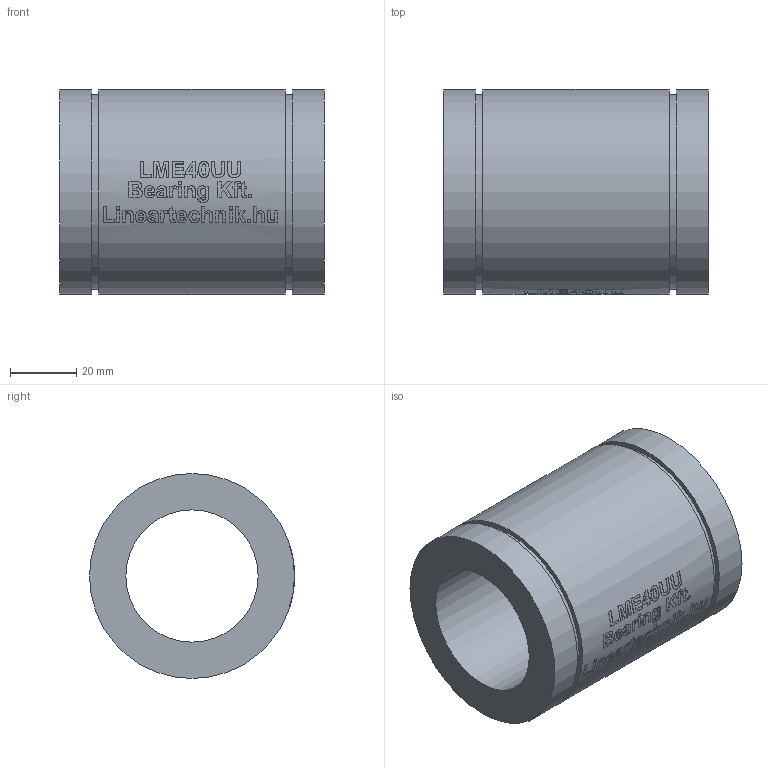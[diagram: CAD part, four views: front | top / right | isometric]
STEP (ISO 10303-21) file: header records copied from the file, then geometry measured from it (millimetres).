
FILE_DESCRIPTION(/* description */ (''),/* implementation_level */ '2;1');
FILE_NAME(/* name */ 'LME40UU',/* time_stamp */ '2019-05-17T10:33:33+02:00',/* author */ ('VĂ©gh MĂˇtĂ©'),/* organization */ ('Bearing Kft'),/* preprocessor_version */ 'ST-DEVELOPER v16.7',/* originating_system */ 'DEX',/* authorisation */ $);
FILE_SCHEMA (('AUTOMOTIVE_DESIGN {1 0 10303 214 3 1 1}'));
Length unit declared in the file: millimetre
Products named in the file (1): LME40UU
Bounding box: 80 x 62 x 62 mm (x, y, z)
Volume: 139732.9 mm3; surface area: 30322.6 mm2
Topology: 1 solids, 1 shells, 320 faces, 803 edges, 536 vertices
Faces by surface type: plane 175, bspline 92, cylinder 53
Full cylindrical faces by diameter (mm): 40 x1, 59 x2, 62 x3
Entity records: 20555 total; most frequent: CARTESIAN_POINT 13358, ORIENTED_EDGE 1584, DIRECTION 1223, EDGE_CURVE 792, VERTEX_POINT 534, LINE 445, VECTOR 445, AXIS2_PLACEMENT_3D 389
